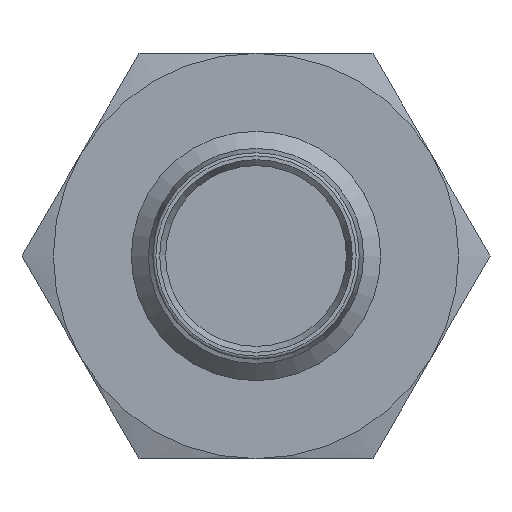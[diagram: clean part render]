
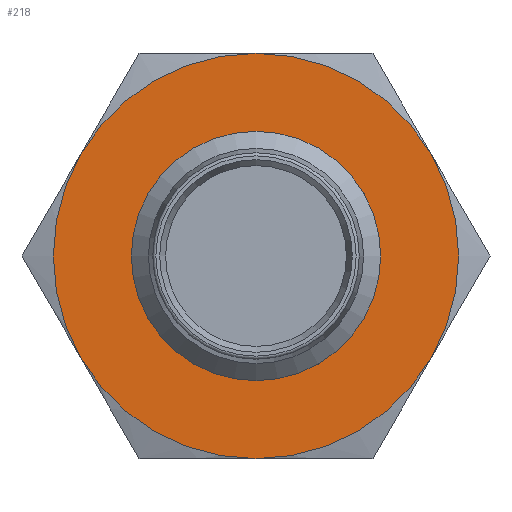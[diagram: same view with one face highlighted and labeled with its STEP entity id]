
A CAD part, left-side view. The second image highlights one B-rep face of the part: STEP entity #218.
In plain terms, the highlighted planar face has unit normal (-1, 0, 0) as drawn and (1, 0, 0) by its records, which use the part's own axes.
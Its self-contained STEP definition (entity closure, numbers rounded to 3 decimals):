
#218 = ADVANCED_FACE( '', ( #343, #344 ), #345, .F. );
#343 = FACE_BOUND( '', #486, .T. );
#344 = FACE_OUTER_BOUND( '', #487, .T. );
#345 = PLANE( '', #488 );
#486 = EDGE_LOOP( '', ( #717 ) );
#487 = EDGE_LOOP( '', ( #718, #719, #720, #721, #722, #723 ) );
#488 = AXIS2_PLACEMENT_3D( '', #724, #725, #726 );
#717 = ORIENTED_EDGE( '', *, *, #882, .F. );
#718 = ORIENTED_EDGE( '', *, *, #886, .T. );
#719 = ORIENTED_EDGE( '', *, *, #887, .T. );
#720 = ORIENTED_EDGE( '', *, *, #888, .T. );
#721 = ORIENTED_EDGE( '', *, *, #889, .T. );
#722 = ORIENTED_EDGE( '', *, *, #890, .T. );
#723 = ORIENTED_EDGE( '', *, *, #891, .T. );
#724 = CARTESIAN_POINT( '', ( 4., 6.5, 0. ) );
#725 = DIRECTION( '', ( -1., 0., 0. ) );
#726 = DIRECTION( '', ( 0., 0., 1. ) );
#882 = EDGE_CURVE( '', #1002, #1002, #1003, .T. );
#886 = EDGE_CURVE( '', #1010, #1011, #1012, .T. );
#887 = EDGE_CURVE( '', #1011, #984, #1013, .T. );
#888 = EDGE_CURVE( '', #984, #975, #1014, .T. );
#889 = EDGE_CURVE( '', #975, #996, #1015, .T. );
#890 = EDGE_CURVE( '', #996, #1016, #1017, .T. );
#891 = EDGE_CURVE( '', #1016, #1010, #1018, .T. );
#975 = VERTEX_POINT( '', #1374 );
#984 = VERTEX_POINT( '', #1400 );
#996 = VERTEX_POINT( '', #1426 );
#1002 = VERTEX_POINT( '', #1444 );
#1003 = CIRCLE( '', #1445, 4. );
#1010 = VERTEX_POINT( '', #1452 );
#1011 = VERTEX_POINT( '', #1453 );
#1012 = CIRCLE( '', #1454, 6.5 );
#1013 = CIRCLE( '', #1455, 6.5 );
#1014 = CIRCLE( '', #1456, 6.5 );
#1015 = CIRCLE( '', #1457, 6.5 );
#1016 = VERTEX_POINT( '', #1458 );
#1017 = CIRCLE( '', #1459, 6.5 );
#1018 = CIRCLE( '', #1460, 6.5 );
#1374 = CARTESIAN_POINT( '', ( 4., 0., 6.5 ) );
#1400 = CARTESIAN_POINT( '', ( 4., 5.629, 3.25 ) );
#1426 = CARTESIAN_POINT( '', ( 4., -5.629, 3.25 ) );
#1444 = CARTESIAN_POINT( '', ( 4., 0., -4. ) );
#1445 = AXIS2_PLACEMENT_3D( '', #1600, #1601, #1602 );
#1452 = CARTESIAN_POINT( '', ( 4., 0., -6.5 ) );
#1453 = CARTESIAN_POINT( '', ( 4., 5.629, -3.25 ) );
#1454 = AXIS2_PLACEMENT_3D( '', #1612, #1613, #1614 );
#1455 = AXIS2_PLACEMENT_3D( '', #1615, #1616, #1617 );
#1456 = AXIS2_PLACEMENT_3D( '', #1618, #1619, #1620 );
#1457 = AXIS2_PLACEMENT_3D( '', #1621, #1622, #1623 );
#1458 = CARTESIAN_POINT( '', ( 4., -5.629, -3.25 ) );
#1459 = AXIS2_PLACEMENT_3D( '', #1624, #1625, #1626 );
#1460 = AXIS2_PLACEMENT_3D( '', #1627, #1628, #1629 );
#1600 = CARTESIAN_POINT( '', ( 4., 0., 0. ) );
#1601 = DIRECTION( '', ( 1., 0., 0. ) );
#1602 = DIRECTION( '', ( 0., 0., -1. ) );
#1612 = CARTESIAN_POINT( '', ( 4., 0., 0. ) );
#1613 = DIRECTION( '', ( 1., 0., 0. ) );
#1614 = DIRECTION( '', ( 0., 0., -1. ) );
#1615 = CARTESIAN_POINT( '', ( 4., 0., 0. ) );
#1616 = DIRECTION( '', ( 1., 0., 0. ) );
#1617 = DIRECTION( '', ( 0., 0., -1. ) );
#1618 = CARTESIAN_POINT( '', ( 4., 0., 0. ) );
#1619 = DIRECTION( '', ( 1., 0., 0. ) );
#1620 = DIRECTION( '', ( 0., 0., -1. ) );
#1621 = CARTESIAN_POINT( '', ( 4., 0., 0. ) );
#1622 = DIRECTION( '', ( 1., 0., 0. ) );
#1623 = DIRECTION( '', ( 0., 0., -1. ) );
#1624 = CARTESIAN_POINT( '', ( 4., 0., 0. ) );
#1625 = DIRECTION( '', ( 1., 0., 0. ) );
#1626 = DIRECTION( '', ( 0., 0., -1. ) );
#1627 = CARTESIAN_POINT( '', ( 4., 0., 0. ) );
#1628 = DIRECTION( '', ( 1., 0., 0. ) );
#1629 = DIRECTION( '', ( 0., 0., -1. ) );
